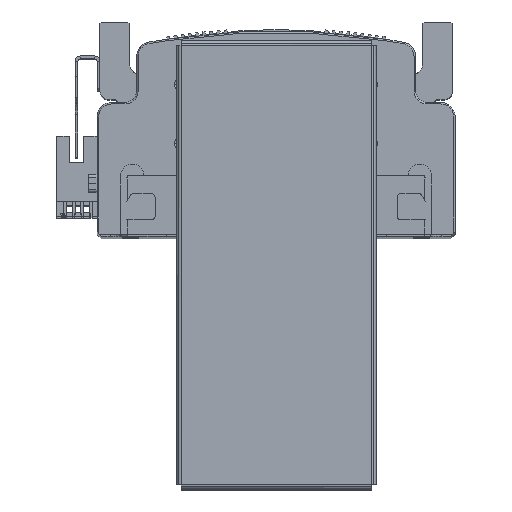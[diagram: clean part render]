
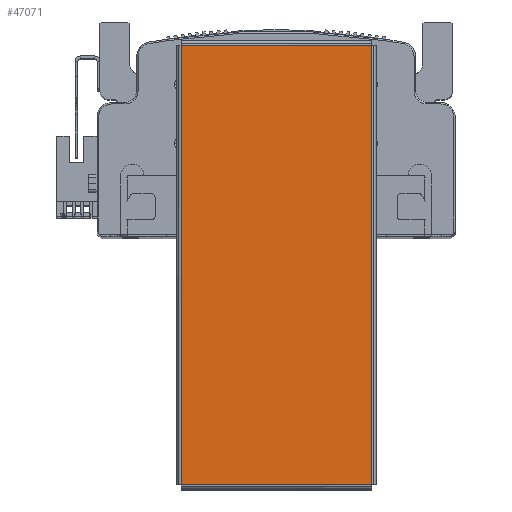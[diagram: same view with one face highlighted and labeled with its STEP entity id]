
A CAD part, top view. The second image highlights one B-rep face of the part: STEP entity #47071.
In plain terms, the highlighted planar face has unit normal (0, 0, 1) as drawn and (0, 0, -1) by its records, which use the part's own axes.
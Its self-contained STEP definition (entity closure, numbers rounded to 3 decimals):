
#2964 = EDGE_CURVE ( 'NONE', #23517, #23601, #52139, .T. ) ;
#2967 = EDGE_CURVE ( 'NONE', #23531, #23515, #52163, .T. ) ;
#3055 = EDGE_CURVE ( 'NONE', #23515, #23517, #52264, .T. ) ;
#3080 = EDGE_CURVE ( 'NONE', #23601, #23531, #52343, .T. ) ;
#4842 = DIRECTION ( 'NONE',  ( 0., 0., 1. ) ) ;
#4857 = CARTESIAN_POINT ( 'NONE',  ( 0., 0., -1. ) ) ;
#4863 = PLANE ( 'NONE',  #39902 ) ;
#4894 = DIRECTION ( 'NONE',  ( 1., 0., 0. ) ) ;
#7731 = ORIENTED_EDGE ( 'NONE', *, *, #2964, .T. ) ;
#7777 = ORIENTED_EDGE ( 'NONE', *, *, #3055, .T. ) ;
#7885 = ORIENTED_EDGE ( 'NONE', *, *, #2967, .T. ) ;
#7896 = ORIENTED_EDGE ( 'NONE', *, *, #3080, .T. ) ;
#23515 = VERTEX_POINT ( 'NONE', #36381 ) ;
#23517 = VERTEX_POINT ( 'NONE', #36401 ) ;
#23531 = VERTEX_POINT ( 'NONE', #36413 ) ;
#23601 = VERTEX_POINT ( 'NONE', #36376 ) ;
#29895 = CARTESIAN_POINT ( 'NONE',  ( 74.763, 32.393, -1. ) ) ;
#30027 = DIRECTION ( 'NONE',  ( 0., -1., 0. ) ) ;
#30214 = CARTESIAN_POINT ( 'NONE',  ( -74.763, -32.393, -1. ) ) ;
#30237 = DIRECTION ( 'NONE',  ( 0., 1., 0. ) ) ;
#36376 = CARTESIAN_POINT ( 'NONE',  ( -74.763, -32.363, -1. ) ) ;
#36381 = CARTESIAN_POINT ( 'NONE',  ( 74.763, 32.363, -1. ) ) ;
#36401 = CARTESIAN_POINT ( 'NONE',  ( 74.763, -32.363, -1. ) ) ;
#36413 = CARTESIAN_POINT ( 'NONE',  ( -74.763, 32.363, -1. ) ) ;
#39902 = AXIS2_PLACEMENT_3D ( 'NONE', #4857, #4842, #4894 ) ;
#43370 = DIRECTION ( 'NONE',  ( -1., 0., 0. ) ) ;
#43376 = CARTESIAN_POINT ( 'NONE',  ( 74.793, -32.363, -1. ) ) ;
#43379 = CARTESIAN_POINT ( 'NONE',  ( -74.793, 32.363, -1. ) ) ;
#43426 = DIRECTION ( 'NONE',  ( 1., 0., 0. ) ) ;
#47071 = ADVANCED_FACE ( 'NONE', ( #54025 ), #4863, .F. ) ;
#52107 = VECTOR ( 'NONE', #43370, 1000. ) ;
#52139 = LINE ( 'NONE', #43376, #52107 ) ;
#52154 = VECTOR ( 'NONE', #43426, 1000. ) ;
#52163 = LINE ( 'NONE', #43379, #52154 ) ;
#52264 = LINE ( 'NONE', #29895, #52275 ) ;
#52275 = VECTOR ( 'NONE', #30027, 1000. ) ;
#52328 = VECTOR ( 'NONE', #30237, 1000. ) ;
#52343 = LINE ( 'NONE', #30214, #52328 ) ;
#54025 = FACE_OUTER_BOUND ( 'NONE', #62616, .T. ) ;
#62616 = EDGE_LOOP ( 'NONE', ( #7777, #7731, #7896, #7885 ) ) ;
